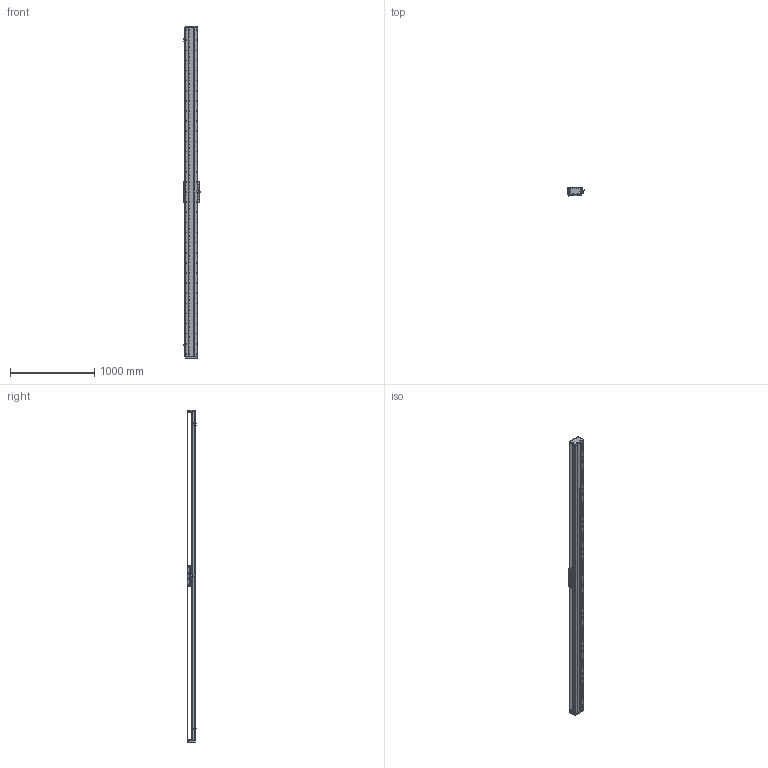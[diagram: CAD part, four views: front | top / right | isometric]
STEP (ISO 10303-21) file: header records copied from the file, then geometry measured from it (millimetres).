
FILE_DESCRIPTION (( 'STEP AP203' ), '1' );
FILE_NAME ('DA-C145-C3-T3600-C010-0.2 眻盄萇儂.STEP', '2025-08-14T01:39:48', ( '' ), ( '' ), 'SwSTEP 2.0', 'SolidWorks 2019', '' );
FILE_SCHEMA (( 'CONFIG_CONTROL_DESIGN' ));
Length unit declared in the file: millimetre
Products named in the file (32): 复件 DA145 钢带^复件 CU145 钢带组件_DA-C145-C3-T-C010-0.2; 葩璃 DMA-010-0.2 黍杅芛^DA-C145-C3-T-C010-0.2; 葩璃 DA95-GT-T-00^IU-CU145-L 菁釱絳寢; 葩璃 CKMA01-W060-TRL^DA-C145-C3-T-C010-0.2; 复件 DA146 钢带垫块^复件 CU145 钢带组件_DA-C145-C3-T-C010-0.2; IU-CU145-L-00 菁釱(L3900); 复件 DA145-DG 钢带端盖^复件 CU145 钢带组件_DA-C145-C3-T-C010-0.2; 葩璃 DA145-C3-DP-A-00 菜えA^CU145-W 幗紩賑怢; 复件 半圆头内六角螺钉 M3×6^CU145-W 滚珠滑台; 复件 DA95-DB-00  挡板^CU145-W 滚珠滑台; 葩璃 CKM03-W060-C1C2-TP-0.2^DA-C145-C3-T-C010-0.2; 葩璃 XD-U-02L 棠掑喜^DA-C145-C3-T-C010-0.2; 复件 DA145-C3-DK-00 挡块^CU145-W 滚珠滑台; 葩璃 PM-T45^DA-C145-C3-T-C010-0.2; 66245-CU145-HT-W-00 賑雄怢啣(3D芞祧)(00); 复件 纯铜油杯 6x6mm^CU145-W 滚珠滑台; IU-CU145-L 菁釱絳寢; 复件 DA145-C3-YB-B-00 压板B^CU145-W 滚珠滑台; DA-C145-C3-T3600-C010-0.2 眻盄萇儂; 葩璃 CU145 詩湍郪璃^DA-C145-C3-T-C010-0.2; 复件 DA145-GYP-00 光电感应片^DA-C145-C3-T-C010-0.2; 复件 DA95-HK-GT-00 滑块钢轨^CU145-W-00 一体化滑动台板; 葩璃 鞠褒情蹟譫 M3^DA-C145-C3-T-C010-0.2; 复件 内六角平端紧定螺钉 GB.T77-2000 M5×10^CU145-W 滚珠滑台; TAY01-M8; CU145-W 幗紩賑怢; 复件 DA146 钢带拉块^复件 CU145 钢带组件_DA-C145-C3-T-C010-0.2; 复件 DA145-C3-YB-A-00 压板A^CU145-W 滚珠滑台; CU145-W-00 珨极趙賑雄怢啣; 复件 DA95-MFP-01 密封片^CU145-W 滚珠滑台; 葩璃 DA145-C3-DP-B-00 菜えB^CU145-W 幗紩賑怢; 葩璃 DA95-HXJ-00 遣喳砎蝶^DA-C145-C3-T-C010-0.2
Assembly tree (103 placements, depth 4):
  DA-C145-C3-T3600-C010-0.2 眻盄萇儂
    IU-CU145-L 菁釱絳寢
      IU-CU145-L-00 菁釱(L3900)
      葩璃 DA95-GT-T-00^IU-CU145-L 菁釱絳寢  x4
    葩璃 CU145 詩湍郪璃^DA-C145-C3-T-C010-0.2
      复件 DA145-DG 钢带端盖^复件 CU145 钢带组件_DA-C145-C3-T-C010-0.2  x2
      复件 DA146 钢带拉块^复件 CU145 钢带组件_DA-C145-C3-T-C010-0.2  x2
      复件 DA146 钢带垫块^复件 CU145 钢带组件_DA-C145-C3-T-C010-0.2  x2
      复件 DA145 钢带^复件 CU145 钢带组件_DA-C145-C3-T-C010-0.2
    CU145-W 幗紩賑怢
      CU145-W-00 珨极趙賑雄怢啣
        66245-CU145-HT-W-00 賑雄怢啣(3D芞祧)(00)
        复件 DA95-HK-GT-00 滑块钢轨^CU145-W-00 一体化滑动台板  x8
      复件 DA95-MFP-01 密封片^CU145-W 滚珠滑台  x8
      复件 DA95-DB-00  挡板^CU145-W 滚珠滑台  x8
      复件 内六角平端紧定螺钉 GB.T77-2000 M5×10^CU145-W 滚珠滑台  x4
      复件 纯铜油杯 6x6mm^CU145-W 滚珠滑台  x4
      复件 半圆头内六角螺钉 M3×6^CU145-W 滚珠滑台  x16
      复件 DA145-C3-DK-00 挡块^CU145-W 滚珠滑台  x4
      葩璃 DA145-C3-DP-B-00 菜えB^CU145-W 幗紩賑怢  x2
      复件 DA145-C3-YB-B-00 压板B^CU145-W 滚珠滑台  x2
      葩璃 DA145-C3-DP-A-00 菜えA^CU145-W 幗紩賑怢  x3
      复件 DA145-C3-YB-A-00 压板A^CU145-W 滚珠滑台  x3
      TAY01-M8  x4
    葩璃 CKMA01-W060-TRL^DA-C145-C3-T-C010-0.2
    葩璃 PM-T45^DA-C145-C3-T-C010-0.2  x3
    葩璃 XD-U-02L 棠掑喜^DA-C145-C3-T-C010-0.2
    葩璃 DA95-HXJ-00 遣喳砎蝶^DA-C145-C3-T-C010-0.2  x4
    复件 DA145-GYP-00 光电感应片^DA-C145-C3-T-C010-0.2
    葩璃 DMA-010-0.2 黍杅芛^DA-C145-C3-T-C010-0.2
    葩璃 CKM03-W060-C1C2-TP-0.2^DA-C145-C3-T-C010-0.2
    葩璃 鞠褒情蹟譫 M3^DA-C145-C3-T-C010-0.2  x8
Bounding box: 203.5 x 108.45 x 3936 mm (x, y, z)
Volume: 17429222.9 mm3; surface area: 5969544.5 mm2
Topology: 99 solids, 131 shells, 5170 faces, 15452 edges, 9766 vertices
Faces by surface type: cylinder 2784, plane 1618, cone 690, torus 74, sphere 4
Entity records: 159350 total; most frequent: CARTESIAN_POINT 51312, ORIENTED_EDGE 22424, DIRECTION 20531, EDGE_CURVE 11212, AXIS2_PLACEMENT_3D 7740, VERTEX_POINT 7305, VECTOR 5051, LINE 5051
